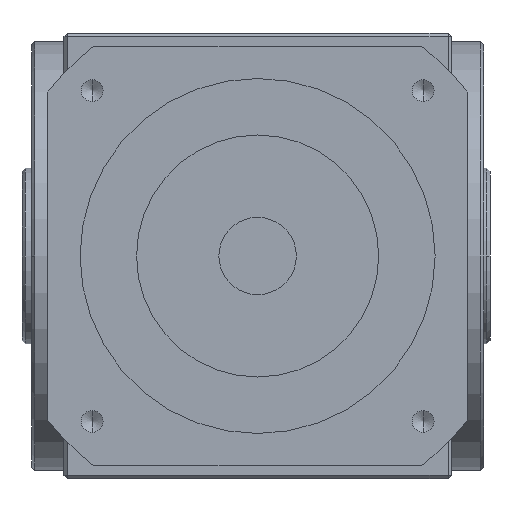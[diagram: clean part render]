
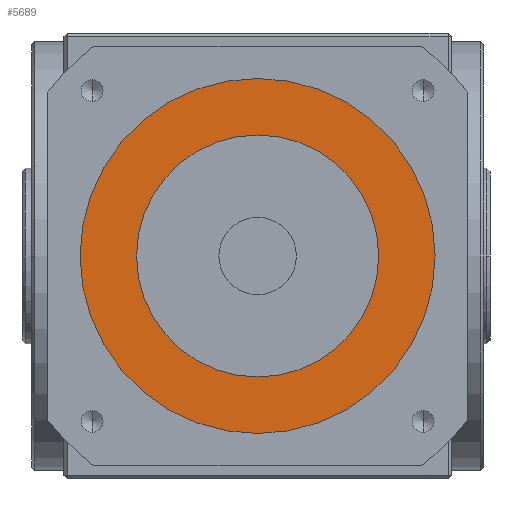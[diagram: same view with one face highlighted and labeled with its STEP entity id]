
A CAD part, front view. The second image highlights one B-rep face of the part: STEP entity #5689.
In plain terms, the highlighted planar face has unit normal (0, -1, 0).
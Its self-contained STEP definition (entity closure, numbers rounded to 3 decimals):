
#77 = VERTEX_POINT ( 'NONE', #1474 ) ;
#522 = AXIS2_PLACEMENT_3D ( 'NONE', #7411, #3213, #8114 ) ;
#702 = CARTESIAN_POINT ( 'NONE',  ( 0., -204., 37.5 ) ) ;
#716 = VERTEX_POINT ( 'NONE', #702 ) ;
#827 = PLANE ( 'NONE',  #1367 ) ;
#1169 = CIRCLE ( 'NONE', #522, 37.5 ) ;
#1206 = EDGE_LOOP ( 'NONE', ( #7954, #8185 ) ) ;
#1231 = DIRECTION ( 'NONE',  ( 0., 1., 0. ) ) ;
#1367 = AXIS2_PLACEMENT_3D ( 'NONE', #2279, #5842, #1572 ) ;
#1474 = CARTESIAN_POINT ( 'NONE',  ( 0., -204., -37.5 ) ) ;
#1572 = DIRECTION ( 'NONE',  ( 0., 0., -1. ) ) ;
#1644 = DIRECTION ( 'NONE',  ( 0., -1., 0. ) ) ;
#1814 = CIRCLE ( 'NONE', #9007, 55. ) ;
#2279 = CARTESIAN_POINT ( 'NONE',  ( 0., -204., 0. ) ) ;
#2912 = VERTEX_POINT ( 'NONE', #4024 ) ;
#3213 = DIRECTION ( 'NONE',  ( 0., 1., 0. ) ) ;
#3521 = FACE_BOUND ( 'NONE', #8849, .T. ) ;
#3590 = CARTESIAN_POINT ( 'NONE',  ( 0., -204., 0. ) ) ;
#4024 = CARTESIAN_POINT ( 'NONE',  ( 0., -204., -55. ) ) ;
#4176 = CIRCLE ( 'NONE', #6283, 37.5 ) ;
#4296 = DIRECTION ( 'NONE',  ( 0., 0., -1. ) ) ;
#4834 = CIRCLE ( 'NONE', #6917, 55. ) ;
#4917 = ORIENTED_EDGE ( 'NONE', *, *, #7112, .T. ) ;
#5426 = CARTESIAN_POINT ( 'NONE',  ( 0., -204., 55. ) ) ;
#5515 = CARTESIAN_POINT ( 'NONE',  ( 0., -204., 0. ) ) ;
#5689 = ADVANCED_FACE ( 'NONE', ( #7243, #3521 ), #827, .T. ) ;
#5842 = DIRECTION ( 'NONE',  ( 0., -1., 0. ) ) ;
#5902 = CARTESIAN_POINT ( 'NONE',  ( 0., -204., 0. ) ) ;
#6033 = EDGE_CURVE ( 'NONE', #7663, #2912, #1814, .T. ) ;
#6205 = DIRECTION ( 'NONE',  ( 0., 0., -1. ) ) ;
#6283 = AXIS2_PLACEMENT_3D ( 'NONE', #5515, #1231, #6205 ) ;
#6349 = EDGE_CURVE ( 'NONE', #77, #716, #4176, .T. ) ;
#6613 = DIRECTION ( 'NONE',  ( 0., 0., -1. ) ) ;
#6917 = AXIS2_PLACEMENT_3D ( 'NONE', #3590, #8465, #4296 ) ;
#7112 = EDGE_CURVE ( 'NONE', #716, #77, #1169, .T. ) ;
#7243 = FACE_OUTER_BOUND ( 'NONE', #1206, .T. ) ;
#7411 = CARTESIAN_POINT ( 'NONE',  ( 0., -204., 0. ) ) ;
#7509 = EDGE_CURVE ( 'NONE', #2912, #7663, #4834, .T. ) ;
#7663 = VERTEX_POINT ( 'NONE', #5426 ) ;
#7954 = ORIENTED_EDGE ( 'NONE', *, *, #7509, .T. ) ;
#8114 = DIRECTION ( 'NONE',  ( 0., 0., -1. ) ) ;
#8185 = ORIENTED_EDGE ( 'NONE', *, *, #6033, .T. ) ;
#8394 = ORIENTED_EDGE ( 'NONE', *, *, #6349, .T. ) ;
#8465 = DIRECTION ( 'NONE',  ( 0., -1., 0. ) ) ;
#8849 = EDGE_LOOP ( 'NONE', ( #8394, #4917 ) ) ;
#9007 = AXIS2_PLACEMENT_3D ( 'NONE', #5902, #1644, #6613 ) ;
